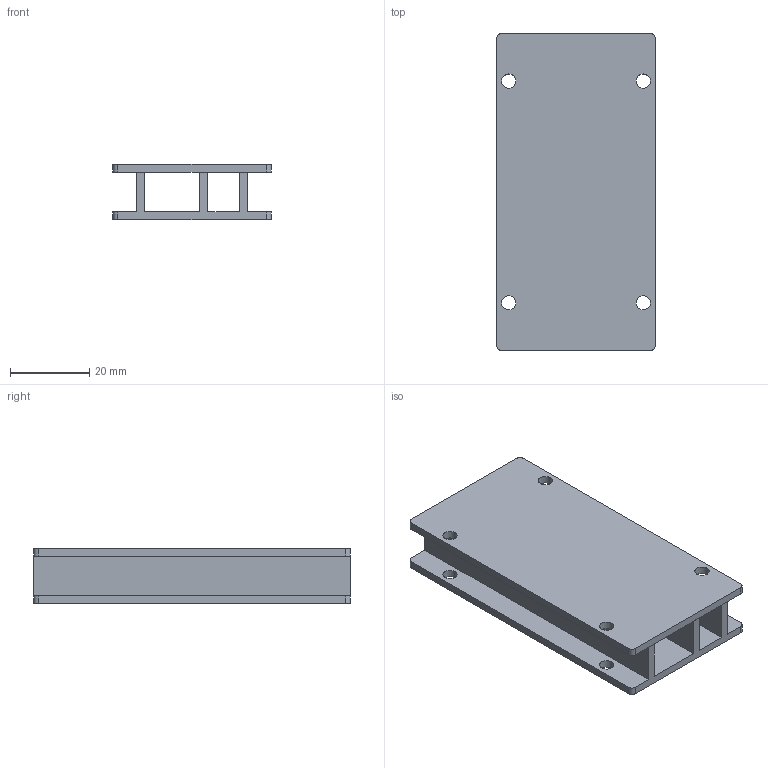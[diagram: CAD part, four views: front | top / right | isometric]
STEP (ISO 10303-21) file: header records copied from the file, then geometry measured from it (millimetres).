
FILE_DESCRIPTION(('Open CASCADE Model'),'2;1');
FILE_NAME('Open CASCADE Shape Model','2026-09-20T03:57:46',('Author'),( 'Open CASCADE'),'Open CASCADE STEP processor 7.9','Open CASCADE 7.9' ,'Unknown');
FILE_SCHEMA(('AUTOMOTIVE_DESIGN { 1 0 10303 214 1 1 1 1 }'));
Length unit declared in the file: millimetre
Products named in the file (3): 70b6302c-b4a7-11f1-9a3a-7a020848e0a9; channel_base; removable_lid
Assembly tree (2 placements, depth 2):
  70b6302c-b4a7-11f1-9a3a-7a020848e0a9
    channel_base
    removable_lid
Bounding box: 40 x 80 x 14 mm (x, y, z)
Volume: 17432.2 mm3; surface area: 18684.9 mm2
Topology: 2 solids, 2 shells, 40 faces, 108 edges, 72 vertices
Faces by surface type: plane 24, cylinder 16
Full cylindrical faces by diameter (mm): 3.6 x8
Entity records: 2772 total; most frequent: CARTESIAN_POINT 555, DIRECTION 406, LINE 240, VECTOR 240, ORIENTED_EDGE 216, PCURVE 216, DEFINITIONAL_REPRESENTATION 216, EDGE_CURVE 108
